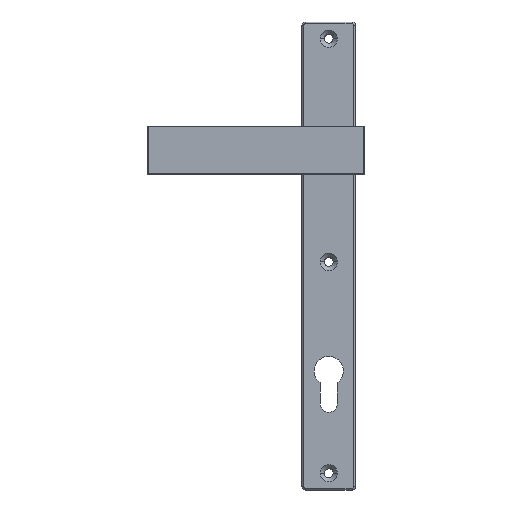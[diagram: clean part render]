
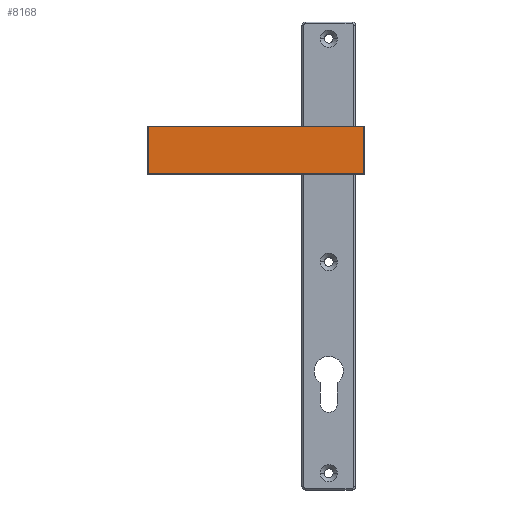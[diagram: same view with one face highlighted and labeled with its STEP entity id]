
A CAD part, top view. The second image highlights one B-rep face of the part: STEP entity #8168.
In plain terms, the highlighted planar face has unit normal (0, 0, 1) as drawn and (-1, 0, 0) by its records, which use the part's own axes.
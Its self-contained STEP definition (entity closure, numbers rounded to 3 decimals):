
#45 = DIRECTION ( 'NONE',  ( -1., 0., 0. ) ) ;
#50 = DIRECTION ( 'NONE',  ( 0., -1., 0. ) ) ;
#90 = AXIS2_PLACEMENT_3D ( 'NONE', #529, #587, #10222 ) ;
#529 = CARTESIAN_POINT ( 'NONE',  ( -5., 0., 0. ) ) ;
#541 = DIRECTION ( 'NONE',  ( 0., -1., 0. ) ) ;
#587 = DIRECTION ( 'NONE',  ( -1., 0., 0. ) ) ;
#647 = ORIENTED_EDGE ( 'NONE', *, *, #7229, .T. ) ;
#883 = EDGE_CURVE ( 'NONE', #8570, #3622, #5213, .T. ) ;
#1090 = CIRCLE ( 'NONE', #7945, 0.5 ) ;
#1242 = DIRECTION ( 'NONE',  ( 0., -1., 0. ) ) ;
#1484 = AXIS2_PLACEMENT_3D ( 'NONE', #8864, #2569, #8123 ) ;
#1875 = AXIS2_PLACEMENT_3D ( 'NONE', #9188, #7715, #541 ) ;
#1904 = DIRECTION ( 'NONE',  ( 0., 0., 1. ) ) ;
#1923 = CARTESIAN_POINT ( 'NONE',  ( -5., 21., -13.5 ) ) ;
#1941 = ORIENTED_EDGE ( 'NONE', *, *, #883, .T. ) ;
#1961 = LINE ( 'NONE', #2739, #5379 ) ;
#2227 = CARTESIAN_POINT ( 'NONE',  ( -5., -107.5, -14. ) ) ;
#2321 = CARTESIAN_POINT ( 'NONE',  ( -5., 20.5, 14. ) ) ;
#2324 = VERTEX_POINT ( 'NONE', #3797 ) ;
#2511 = CARTESIAN_POINT ( 'NONE',  ( -5., 20.5, -13.5 ) ) ;
#2569 = DIRECTION ( 'NONE',  ( -1., 0., 0. ) ) ;
#2739 = CARTESIAN_POINT ( 'NONE',  ( -5., -108., 13.5 ) ) ;
#2791 = CARTESIAN_POINT ( 'NONE',  ( -5., 21., -13.5 ) ) ;
#2820 = CARTESIAN_POINT ( 'NONE',  ( -5., -107.5, -14. ) ) ;
#2873 = EDGE_CURVE ( 'NONE', #3511, #9149, #1090, .T. ) ;
#2909 = VECTOR ( 'NONE', #1242, 1000. ) ;
#3357 = VERTEX_POINT ( 'NONE', #6084 ) ;
#3511 = VERTEX_POINT ( 'NONE', #2321 ) ;
#3587 = ORIENTED_EDGE ( 'NONE', *, *, #5317, .T. ) ;
#3622 = VERTEX_POINT ( 'NONE', #8501 ) ;
#3677 = ORIENTED_EDGE ( 'NONE', *, *, #2873, .T. ) ;
#3797 = CARTESIAN_POINT ( 'NONE',  ( -5., -107.5, 14. ) ) ;
#4322 = CIRCLE ( 'NONE', #1484, 0.5 ) ;
#4599 = EDGE_CURVE ( 'NONE', #9149, #7816, #9972, .T. ) ;
#5213 = CIRCLE ( 'NONE', #1875, 0.5 ) ;
#5266 = CIRCLE ( 'NONE', #8129, 0.5 ) ;
#5317 = EDGE_CURVE ( 'NONE', #3622, #7260, #1961, .T. ) ;
#5379 = VECTOR ( 'NONE', #1904, 1000. ) ;
#5427 = EDGE_CURVE ( 'NONE', #2324, #3511, #6723, .T. ) ;
#5698 = DIRECTION ( 'NONE',  ( 0., -1., 0. ) ) ;
#6084 = CARTESIAN_POINT ( 'NONE',  ( -5., 20.5, -14. ) ) ;
#6090 = ORIENTED_EDGE ( 'NONE', *, *, #10186, .T. ) ;
#6446 = DIRECTION ( 'NONE',  ( -1., 0., 0. ) ) ;
#6475 = ORIENTED_EDGE ( 'NONE', *, *, #9145, .T. ) ;
#6656 = CARTESIAN_POINT ( 'NONE',  ( -5., -108., 13.5 ) ) ;
#6723 = LINE ( 'NONE', #9292, #9408 ) ;
#6838 = CARTESIAN_POINT ( 'NONE',  ( -5., 21., 13.5 ) ) ;
#7229 = EDGE_CURVE ( 'NONE', #7260, #2324, #4322, .T. ) ;
#7260 = VERTEX_POINT ( 'NONE', #6656 ) ;
#7281 = CARTESIAN_POINT ( 'NONE',  ( -5., 20.5, 13.5 ) ) ;
#7715 = DIRECTION ( 'NONE',  ( -1., 0., 0. ) ) ;
#7758 = PLANE ( 'NONE',  #90 ) ;
#7816 = VERTEX_POINT ( 'NONE', #1923 ) ;
#7928 = DIRECTION ( 'NONE',  ( 0., 0., -1. ) ) ;
#7945 = AXIS2_PLACEMENT_3D ( 'NONE', #7281, #6446, #50 ) ;
#8123 = DIRECTION ( 'NONE',  ( 0., -1., 0. ) ) ;
#8129 = AXIS2_PLACEMENT_3D ( 'NONE', #2511, #45, #5698 ) ;
#8168 = ADVANCED_FACE ( 'NONE', ( #8253 ), #7758, .T. ) ;
#8253 = FACE_OUTER_BOUND ( 'NONE', #8665, .T. ) ;
#8501 = CARTESIAN_POINT ( 'NONE',  ( -5., -108., -13.5 ) ) ;
#8570 = VERTEX_POINT ( 'NONE', #2820 ) ;
#8628 = LINE ( 'NONE', #2227, #2909 ) ;
#8665 = EDGE_LOOP ( 'NONE', ( #3587, #647, #9724, #3677, #8915, #6090, #6475, #1941 ) ) ;
#8807 = VECTOR ( 'NONE', #7928, 1000. ) ;
#8864 = CARTESIAN_POINT ( 'NONE',  ( -5., -107.5, 13.5 ) ) ;
#8915 = ORIENTED_EDGE ( 'NONE', *, *, #4599, .T. ) ;
#9145 = EDGE_CURVE ( 'NONE', #3357, #8570, #8628, .T. ) ;
#9149 = VERTEX_POINT ( 'NONE', #6838 ) ;
#9188 = CARTESIAN_POINT ( 'NONE',  ( -5., -107.5, -13.5 ) ) ;
#9292 = CARTESIAN_POINT ( 'NONE',  ( -5., 20.5, 14. ) ) ;
#9408 = VECTOR ( 'NONE', #10183, 1000. ) ;
#9724 = ORIENTED_EDGE ( 'NONE', *, *, #5427, .T. ) ;
#9972 = LINE ( 'NONE', #2791, #8807 ) ;
#10183 = DIRECTION ( 'NONE',  ( 0., 1., 0. ) ) ;
#10186 = EDGE_CURVE ( 'NONE', #7816, #3357, #5266, .T. ) ;
#10222 = DIRECTION ( 'NONE',  ( 0., -1., 0. ) ) ;
